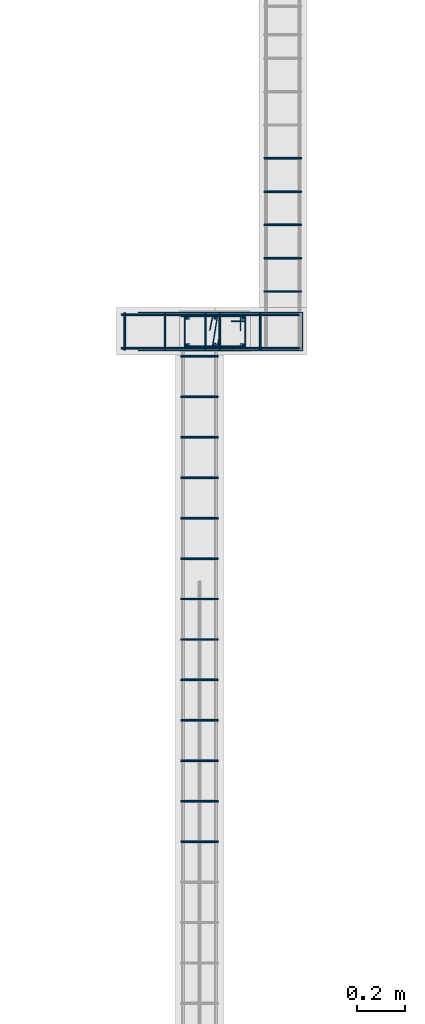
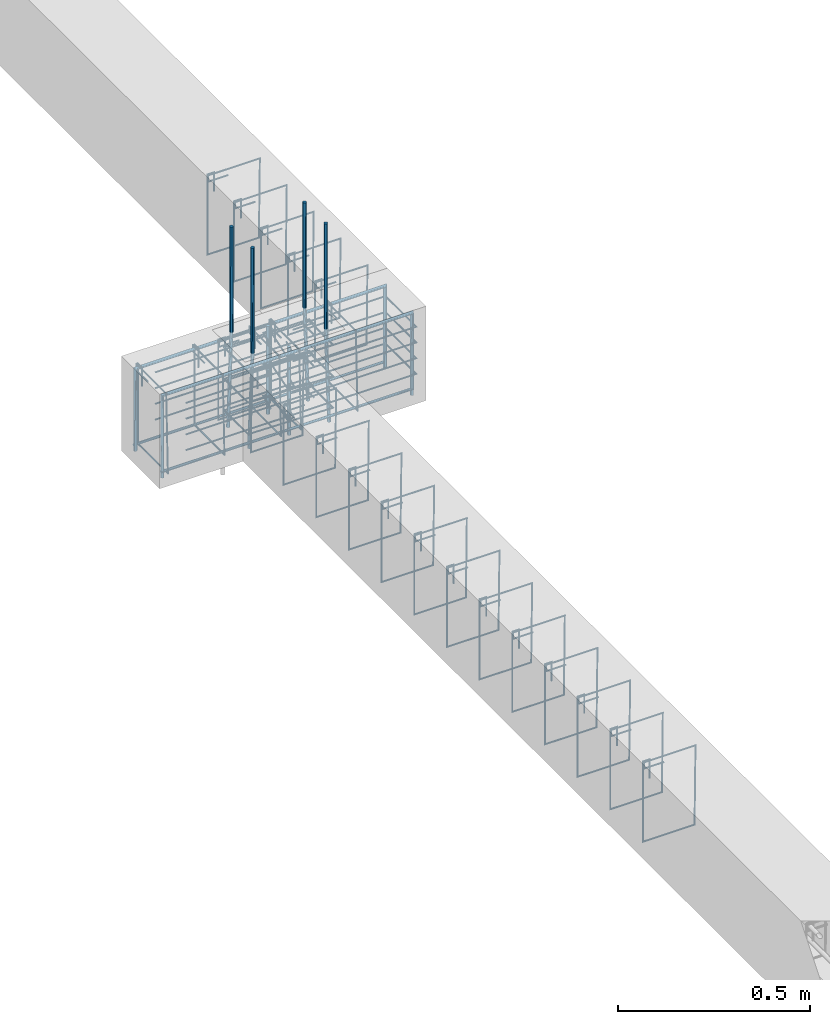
# One storey, part 95 of 150: 44 reinforcing bars.
"""IFC4 building model written with IfcOpenShell, lengths in centimetres."""

import ifcopenshell
import ifcopenshell.guid

model = None  # the IFC model being written
_history = None  # IfcOwnerHistory: only IFC2X3 demands one
_inside = {}  # id of a spatial element -> (the spatial element, [elements in it])
_under = {}  # id of a project, library or spatial element -> (it, [spatial elements below it])
_declared = {}  # id of a project -> (the project, [libraries it declares])
_typed = {}  # id of a type object -> (the type object, [elements of that type])
_made_of = {}  # id of a material, layer set ... -> (it, [elements and type objects made of it])


def new_model(schema):
    """Start an empty IFC model of exactly this schema.

    Asked for "IFC4X3", IfcOpenShell would pick the latest addendum, in which some entities
    have other attributes; the version numbers below select the first issue.
    IFC2X3 requires an IfcOwnerHistory on every rooted entity: one is made here for all.
    """
    global model, _history
    if schema == "IFC4X3":
        model = ifcopenshell.file(schema_version=(4, 3, 0, 0))
    else:
        model = ifcopenshell.file(schema=schema)
    _inside.clear()
    _under.clear()
    _declared.clear()
    _typed.clear()
    _made_of.clear()
    _history = None
    if model.schema == "IFC2X3":
        org = make("IfcOrganization", Name="unknown")
        user = make(
            "IfcPersonAndOrganization",
            ThePerson=make("IfcPerson", FamilyName="unknown"),
            TheOrganization=org,
        )
        app = make(
            "IfcApplication",
            ApplicationDeveloper=org,
            Version="unknown",
            ApplicationFullName="unknown",
            ApplicationIdentifier="unknown",
        )
        _history = make(
            "IfcOwnerHistory",
            OwningUser=user,
            OwningApplication=app,
            ChangeAction="ADDED",
            CreationDate=0,
        )
    return model


def make(cls, **values):
    """One entity of the class cls with the attributes given. An attribute that is None is left unset."""
    return model.create_entity(
        cls, **{name: value for name, value in values.items() if value is not None}
    )


def entity(cls, *values):
    """Any entity or typed value of the class cls, its attributes in the order of the schema. None: left unset."""
    e = model.create_entity(cls)
    for i, value in enumerate(values):
        if value is not None:
            e[i] = value
    return e


def rooted(cls, **values):
    """An entity with a GlobalId (a new one), such as an element, a storey or a relation."""
    return make(cls, GlobalId=ifcopenshell.guid.new(), OwnerHistory=_history, **values)


def si_unit(unit_type, name, prefix=None):
    """IfcSIUnit, for example si_unit("LENGTHUNIT", "METRE", prefix="MILLI")."""
    return make("IfcSIUnit", UnitType=unit_type, Prefix=prefix, Name=name)


def derived_unit(unit_type, elements):
    """IfcDerivedUnit: a product of units, each with its exponent."""
    return make(
        "IfcDerivedUnit",
        Elements=[
            make("IfcDerivedUnitElement", Unit=unit, Exponent=power)
            for unit, power in elements
        ],
        UnitType=unit_type,
    )


def assignment(units):
    """IfcUnitAssignment: the units of a project."""
    return None if units is None else make("IfcUnitAssignment", Units=units)


def point(xyz):
    """IfcCartesianPoint."""
    return None if xyz is None else make("IfcCartesianPoint", Coordinates=xyz)


def direction(xyz):
    """IfcDirection."""
    return None if xyz is None else make("IfcDirection", DirectionRatios=xyz)


def frame(location, z_axis=None, x_axis=None):
    """IfcAxis2Placement3D, a coordinate frame: its origin and axes. An axis left out is left unset."""
    return make(
        "IfcAxis2Placement3D",
        Location=point(location),
        Axis=direction(z_axis),
        RefDirection=direction(x_axis),
    )


def origin_with_axes():
    """The frame at (0, 0, 0) with the z axis (0, 0, 1) and the x axis (1, 0, 0) written out."""
    return frame((0.0, 0.0, 0.0), z_axis=(0.0, 0.0, 1.0), x_axis=(1.0, 0.0, 0.0))


def place(relative_to, where):
    """IfcLocalPlacement: puts the frame where relative to a parent placement (None: the world)."""
    return make(
        "IfcLocalPlacement", PlacementRelTo=relative_to, RelativePlacement=where
    )


def context(
    kind, dimensions, precision=None, world=None, true_north=None, identifier=None
):
    """IfcGeometricRepresentationContext, for example the 3D "Model" context."""
    return make(
        "IfcGeometricRepresentationContext",
        ContextIdentifier=identifier,
        ContextType=kind,
        CoordinateSpaceDimension=dimensions,
        Precision=precision,
        WorldCoordinateSystem=world,
        TrueNorth=true_north,
    )


def project(units=None, contexts=None):
    """IfcProject with its units and contexts."""
    return rooted(
        "IfcProject",
        Name="project",
        RepresentationContexts=contexts,
        UnitsInContext=assignment(units),
    )


def spatial(cls, under=None, at=None, **own):
    """A site, building, storey or space (cls), placed at a placement, below another one or the project."""
    s = rooted(cls, ObjectPlacement=at, **own)
    if under is not None:
        _under.setdefault(under.id(), (under, []))[1].append(s)
    return s


def shape(context_of_items, identifier, shape_type, items):
    """IfcShapeRepresentation: the items that make up one representation, for example the "Body"."""
    return make(
        "IfcShapeRepresentation",
        ContextOfItems=context_of_items,
        RepresentationIdentifier=identifier,
        RepresentationType=shape_type,
        Items=items,
    )


def source(mapping_origin, context_of_items, identifier, shape_type, items):
    """IfcRepresentationMap: a shape defined once, which mapped items show again and again."""
    return make(
        "IfcRepresentationMap",
        MappingOrigin=mapping_origin,
        MappedRepresentation=shape(context_of_items, identifier, shape_type, items),
    )


def transform(
    local_origin,
    x_axis=None,
    y_axis=None,
    z_axis=None,
    scale=None,
    scale2=None,
    scale3=None,
    uniform=True,
):
    """IfcCartesianTransformationOperator3D, or its non-uniform kind. x_axis, y_axis, z_axis: its Axis1, 2, 3."""
    if uniform:
        return make(
            "IfcCartesianTransformationOperator3D",
            Axis1=direction(x_axis),
            Axis2=direction(y_axis),
            LocalOrigin=point(local_origin),
            Scale=scale,
            Axis3=direction(z_axis),
        )
    return make(
        "IfcCartesianTransformationOperator3DnonUniform",
        Axis1=direction(x_axis),
        Axis2=direction(y_axis),
        LocalOrigin=point(local_origin),
        Scale=scale,
        Axis3=direction(z_axis),
        Scale2=scale2,
        Scale3=scale3,
    )


def mapped(mapping_source, mapping_target):
    """IfcMappedItem: shows the shape of a source again, moved by a transform."""
    return make(
        "IfcMappedItem", MappingSource=mapping_source, MappingTarget=mapping_target
    )


def made_of(thing, what):
    """Note that an element or type object is made of a material, layer set ...; save() writes the relation."""
    if what is not None:
        _made_of.setdefault(what.id(), (what, []))[1].append(thing)
    return thing


def element(
    cls,
    number,
    at=None,
    inside=None,
    cuts=None,
    type_object=None,
    material=None,
    context=None,
    identifier="Body",
    shape_type=None,
    held_by="IfcProductDefinitionShape",
    body=None,
    shapes=None,
    **own,
):
    """One element of the class cls, such as IfcWall. Its Tag is "e" and its number.

    at: its placement. inside: the storey or other place that contains it. cuts: it is an
    opening in that element (IfcRelVoidsElement). A single representation is given by context,
    identifier, shape_type and body (its items); several are given by shapes. held_by: the class
    of the entity that holds the representations. save() writes the other relations.
    """
    e = rooted(cls, Tag="e%d" % number, ObjectPlacement=at, **own)
    if body is not None:
        shapes = [shape(context, identifier, shape_type, body)]
    if shapes is not None:
        e.Representation = make(held_by, Representations=shapes)
    if inside is not None:
        _inside.setdefault(inside.id(), (inside, []))[1].append(e)
    if cuts is not None:
        rooted(
            "IfcRelVoidsElement", RelatingBuildingElement=cuts, RelatedOpeningElement=e
        )
    if type_object is not None:
        _typed.setdefault(type_object.id(), (type_object, []))[1].append(e)
    return made_of(e, material)


def aggregate(whole, parts):
    """IfcRelAggregates: a whole, such as a stair, and the parts it consists of."""
    return rooted("IfcRelAggregates", RelatingObject=whole, RelatedObjects=parts)


def save(model, path):
    """Write the relations noted so far, then the file.

    IfcRelAggregates (storeys below a building ...), IfcRelContainedInSpatialStructure (elements
    in a storey), IfcRelDefinesByType, IfcRelAssociatesMaterial and IfcRelDeclares: one each for
    every whole, place, type object, material and project.
    """
    for whole, parts in _under.values():
        aggregate(whole, parts)
    for where, things in _inside.values():
        rooted(
            "IfcRelContainedInSpatialStructure",
            RelatedElements=things,
            RelatingStructure=where,
        )
    for kind, things in _typed.values():
        rooted("IfcRelDefinesByType", RelatedObjects=things, RelatingType=kind)
    for what, things in _made_of.values():
        rooted("IfcRelAssociatesMaterial", RelatedObjects=things, RelatingMaterial=what)
    for by, libraries in _declared.values():
        rooted("IfcRelDeclares", RelatingContext=by, RelatedDefinitions=libraries)
    model.write(path)


model = new_model("IFC4")

# Units and contexts
model_context = context("Model", 3, precision=1e-05, world=origin_with_axes(), identifier="Body")
ifc_project = project(units=[si_unit("LENGTHUNIT", "METRE", prefix="CENTI"), si_unit("VOLUMEUNIT", "CUBIC_METRE"), si_unit("AREAUNIT", "SQUARE_METRE"), si_unit("POWERUNIT", "WATT"), si_unit("LUMINOUSFLUXUNIT", "LUMEN"), si_unit("ELECTRICCURRENTUNIT", "AMPERE"), si_unit("PRESSUREUNIT", "PASCAL", prefix="KILO"), si_unit("MASSUNIT", "GRAM", prefix="KILO"), si_unit("PLANEANGLEUNIT", "RADIAN"), derived_unit("VOLUMETRICFLOWRATEUNIT", [(si_unit("LENGTHUNIT", "METRE"), 3), (si_unit("TIMEUNIT", "SECOND"), -1)])], contexts=[model_context])

# Site, building, storey
site_placement = place(None, frame((-4000.0, 0.0, 0.0), z_axis=(0.0, 0.0, 1.0), x_axis=(1.0, 0.0, 0.0)))
site = spatial("IfcSite", under=ifc_project, at=site_placement, Name="PADRÃO")
building_placement = place(site_placement, frame((0.0, 0.0, -14.0)))
building = spatial("IfcBuilding", under=site, at=building_placement, Name="CRECHE PRÉ-ESCOLA TIPO 2")
placement = place(building_placement, origin_with_axes())
storey_placement = place(placement, frame((0.0, 0.0, 30.0), z_axis=(0.0, 0.0, 1.0), x_axis=(1.0, 0.0, 0.0)))
storey = spatial("IfcBuildingStorey", under=building, at=storey_placement, Name="VIGA BALDRAME", CompositionType="ELEMENT", Elevation=16.0)

# Reinforcing bars
shared_shape_1 = source(origin_with_axes(), model_context, "Body", "AdvancedSweptSolid", [
    entity("IfcSweptDiskSolid", entity("IfcCompositeCurve", [entity("IfcCompositeCurveSegment", "CONTINUOUS", True, entity("IfcPolyline", [entity("IfcCartesianPoint", [4.25, 21.75, 0.0]), entity("IfcCartesianPoint", [4.25, 27.75, 0.0])])), entity("IfcCompositeCurveSegment", "CONTINUOUS", True, entity("IfcPolyline", [entity("IfcCartesianPoint", [4.25, 27.75, 0.0]), entity("IfcCartesianPoint", [2.25, 27.75, 0.0])])), entity("IfcCompositeCurveSegment", "CONTINUOUS", True, entity("IfcPolyline", [entity("IfcCartesianPoint", [2.25, 27.75, 0.0]), entity("IfcCartesianPoint", [2.25, 2.25, 0.0])])), entity("IfcCompositeCurveSegment", "CONTINUOUS", True, entity("IfcPolyline", [entity("IfcCartesianPoint", [2.25, 2.25, 0.0]), entity("IfcCartesianPoint", [14.75, 2.25, 0.0])])), entity("IfcCompositeCurveSegment", "CONTINUOUS", True, entity("IfcPolyline", [entity("IfcCartesianPoint", [14.75, 2.25, 0.0]), entity("IfcCartesianPoint", [14.75, 27.75, -0.5])])), entity("IfcCompositeCurveSegment", "CONTINUOUS", True, entity("IfcPolyline", [entity("IfcCartesianPoint", [14.75, 27.75, -0.5]), entity("IfcCartesianPoint", [2.25, 27.75, -0.5])])), entity("IfcCompositeCurveSegment", "CONTINUOUS", True, entity("IfcPolyline", [entity("IfcCartesianPoint", [2.25, 27.75, -0.5]), entity("IfcCartesianPoint", [2.25, 25.75, -0.5])])), entity("IfcCompositeCurveSegment", "CONTINUOUS", True, entity("IfcPolyline", [entity("IfcCartesianPoint", [2.25, 25.75, -0.5]), entity("IfcCartesianPoint", [8.25, 25.75, -0.5])]))], False), 0.25),
])
for number, where, z_axis, x_axis, name in (
    (1, (3357.5, 1038.58, -25.0), (0.0, 0.0, 1.0), (0.0, -1.0, 0.0), "P124 - Estribo"),
    (2, (3357.5, 1038.58, -15.0), (0.0, 0.0, 1.0), (0.0, -1.0, 0.0), "P124 - Estribo"),
    (3, (3357.5, 1038.58, -5.0), (0.0, 0.0, 1.0), (0.0, -1.0, 0.0), "P124 - Estribo"),
):
    element("IfcReinforcingBar", number, at=place(storey_placement, frame(where, z_axis=z_axis, x_axis=x_axis)), inside=storey, Name=name, BarLength=0.0, CrossSectionArea=1.9634954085e-05, NominalDiameter=0.5, PredefinedType="MAIN", context=model_context, shape_type="MappedRepresentation", body=[
        mapped(shared_shape_1, transform((0.0, 0.0, 0.0), scale=1.0)),
    ])
shared_shape_2 = source(origin_with_axes(), model_context, "Body", "AdvancedSweptSolid", [
    entity("IfcSweptDiskSolid", entity("IfcCompositeCurve", [entity("IfcCompositeCurveSegment", "CONTINUOUS", True, entity("IfcPolyline", [entity("IfcCartesianPoint", [8.81925062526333, 17.1913887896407, 0.0]), entity("IfcCartesianPoint", [14.75, 16.0, 0.0])])), entity("IfcCompositeCurveSegment", "CONTINUOUS", True, entity("IfcPolyline", [entity("IfcCartesianPoint", [14.75, 16.0, 0.0]), entity("IfcCartesianPoint", [14.75, 14.0, 0.0])])), entity("IfcCompositeCurveSegment", "CONTINUOUS", True, entity("IfcPolyline", [entity("IfcCartesianPoint", [14.75, 14.0, 0.0]), entity("IfcCartesianPoint", [2.25, 16.0, 0.0])])), entity("IfcCompositeCurveSegment", "CONTINUOUS", True, entity("IfcPolyline", [entity("IfcCartesianPoint", [2.25, 16.0, 0.0]), entity("IfcCartesianPoint", [2.25, 14.0, 0.0])])), entity("IfcCompositeCurveSegment", "CONTINUOUS", True, entity("IfcPolyline", [entity("IfcCartesianPoint", [2.25, 14.0, 0.0]), entity("IfcCartesianPoint", [8.1807493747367, 12.8086112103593, 0.0])]))], False), 0.25),
])
for number, where, z_axis, x_axis, name in (
    (4, (3357.5, 1038.58, -4.5), (0.0, 0.0, 1.0), (0.0, -1.0, 0.0), "P124 - Grampo"),
    (5, (3357.5, 1038.58, -14.5), (0.0, 0.0, 1.0), (0.0, -1.0, 0.0), "P124 - Grampo"),
    (6, (3357.5, 1038.58, -24.5), (0.0, 0.0, 1.0), (0.0, -1.0, 0.0), "P124 - Grampo"),
):
    element("IfcReinforcingBar", number, at=place(storey_placement, frame(where, z_axis=z_axis, x_axis=x_axis)), inside=storey, Name=name, BarLength=0.0, CrossSectionArea=1.9634954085e-05, NominalDiameter=0.5, PredefinedType="MAIN", context=model_context, shape_type="MappedRepresentation", body=[
        mapped(shared_shape_2, transform((0.0, 0.0, 0.0), scale=1.0)),
    ])
shared_shape_3 = source(origin_with_axes(), model_context, "Body", "AdvancedSweptSolid", [
    entity("IfcSweptDiskSolid", entity("IfcCompositeCurve", [entity("IfcCompositeCurveSegment", "CONTINUOUS", True, entity("IfcPolyline", [entity("IfcCartesianPoint", [2.0, -6.0, 0.0]), entity("IfcCartesianPoint", [2.0, 0.0, 0.0])])), entity("IfcCompositeCurveSegment", "CONTINUOUS", True, entity("IfcPolyline", [entity("IfcCartesianPoint", [2.0, 0.0, 0.0]), entity("IfcCartesianPoint", [0.0, 0.0, 0.0])])), entity("IfcCompositeCurveSegment", "CONTINUOUS", True, entity("IfcPolyline", [entity("IfcCartesianPoint", [0.0, 0.0, 0.0]), entity("IfcCartesianPoint", [0.0, -25.5, 0.0])])), entity("IfcCompositeCurveSegment", "CONTINUOUS", True, entity("IfcPolyline", [entity("IfcCartesianPoint", [0.0, -25.5, 0.0]), entity("IfcCartesianPoint", [15.5, -25.5, 0.0])])), entity("IfcCompositeCurveSegment", "CONTINUOUS", True, entity("IfcPolyline", [entity("IfcCartesianPoint", [15.5, -25.5, 0.0]), entity("IfcCartesianPoint", [15.5, 0.0, 0.5])])), entity("IfcCompositeCurveSegment", "CONTINUOUS", True, entity("IfcPolyline", [entity("IfcCartesianPoint", [15.5, 0.0, 0.5]), entity("IfcCartesianPoint", [0.0, 0.0, 0.5])])), entity("IfcCompositeCurveSegment", "CONTINUOUS", True, entity("IfcPolyline", [entity("IfcCartesianPoint", [0.0, 0.0, 0.5]), entity("IfcCartesianPoint", [0.0, -2.0, 0.5])])), entity("IfcCompositeCurveSegment", "CONTINUOUS", True, entity("IfcPolyline", [entity("IfcCartesianPoint", [0.0, -2.0, 0.5]), entity("IfcCartesianPoint", [6.0, -2.0, 0.5])]))], False), 0.25),
])
for number, where, z_axis, x_axis, name in (
    (7, (3393.23, 1047.08, -2.25), (0.0, -1.0, 0.0), (1.0, 0.0, 0.0), "V225 - Estribo"),
    (8, (3393.23, 1103.08, -2.25), (0.0, -1.0, 0.0), (1.0, 0.0, 0.0), "V225 - Estribo"),
    (9, (3393.23, 1089.08, -2.25), (0.0, -1.0, 0.0), (1.0, 0.0, 0.0), "V225 - Estribo"),
    (10, (3393.23, 1075.08, -2.25), (0.0, -1.0, 0.0), (1.0, 0.0, 0.0), "V225 - Estribo"),
    (11, (3393.23, 1061.08, -2.25), (0.0, -1.0, 0.0), (1.0, 0.0, 0.0), "V225 - Estribo"),
):
    element("IfcReinforcingBar", number, at=place(storey_placement, frame(where, z_axis=z_axis, x_axis=x_axis)), inside=storey, Name=name, BarLength=0.0, CrossSectionArea=1.9634954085e-05, NominalDiameter=0.5, PredefinedType="MAIN", context=model_context, shape_type="MappedRepresentation", body=[
        mapped(shared_shape_3, transform((0.0, 0.0, 0.0), scale=1.0)),
    ])
shared_shape_4 = source(origin_with_axes(), model_context, "Body", "AdvancedSweptSolid", [
    entity("IfcSweptDiskSolid", entity("IfcCompositeCurve", [entity("IfcCompositeCurveSegment", "CONTINUOUS", True, entity("IfcPolyline", [entity("IfcCartesianPoint", [2.0, -6.0, 0.0]), entity("IfcCartesianPoint", [2.0, 0.0, 0.0])])), entity("IfcCompositeCurveSegment", "CONTINUOUS", True, entity("IfcPolyline", [entity("IfcCartesianPoint", [2.0, 0.0, 0.0]), entity("IfcCartesianPoint", [0.0, 0.0, 0.0])])), entity("IfcCompositeCurveSegment", "CONTINUOUS", True, entity("IfcPolyline", [entity("IfcCartesianPoint", [0.0, 0.0, 0.0]), entity("IfcCartesianPoint", [0.0, -25.5, 0.0])])), entity("IfcCompositeCurveSegment", "CONTINUOUS", True, entity("IfcPolyline", [entity("IfcCartesianPoint", [0.0, -25.5, 0.0]), entity("IfcCartesianPoint", [15.5, -25.5, 0.0])])), entity("IfcCompositeCurveSegment", "CONTINUOUS", True, entity("IfcPolyline", [entity("IfcCartesianPoint", [15.5, -25.5, 0.0]), entity("IfcCartesianPoint", [15.5, 0.0, 0.5])])), entity("IfcCompositeCurveSegment", "CONTINUOUS", True, entity("IfcPolyline", [entity("IfcCartesianPoint", [15.5, 0.0, 0.5]), entity("IfcCartesianPoint", [0.0, 0.0, 0.5])])), entity("IfcCompositeCurveSegment", "CONTINUOUS", True, entity("IfcPolyline", [entity("IfcCartesianPoint", [0.0, 0.0, 0.5]), entity("IfcCartesianPoint", [0.0, -2.0, 0.5])])), entity("IfcCompositeCurveSegment", "CONTINUOUS", True, entity("IfcPolyline", [entity("IfcCartesianPoint", [0.0, -2.0, 0.5]), entity("IfcCartesianPoint", [6.0, -2.0, 0.5])]))], False), 0.25),
])
for number, where, z_axis, x_axis, name in (
    (12, (3358.25, 1036.795, -2.25), (0.0, -1.0, 0.0), (1.0, 0.0, 0.0), "V224 - Estribo"),
    (13, (3358.25, 1019.795, -2.25), (0.0, -1.0, 0.0), (1.0, 0.0, 0.0), "V224 - Estribo"),
    (14, (3358.25, 1002.795, -2.25), (0.0, -1.0, 0.0), (1.0, 0.0, 0.0), "V224 - Estribo"),
    (15, (3358.25, 985.795, -2.25), (0.0, -1.0, 0.0), (1.0, 0.0, 0.0), "V224 - Estribo"),
    (16, (3358.25, 968.795, -2.25), (0.0, -1.0, 0.0), (1.0, 0.0, 0.0), "V224 - Estribo"),
    (17, (3358.25, 951.795, -2.25), (0.0, -1.0, 0.0), (1.0, 0.0, 0.0), "V224 - Estribo"),
    (18, (3358.25, 934.795, -2.25), (0.0, -1.0, 0.0), (1.0, 0.0, 0.0), "V224 - Estribo"),
    (19, (3358.25, 917.795, -2.25), (0.0, -1.0, 0.0), (1.0, 0.0, 0.0), "V224 - Estribo"),
    (20, (3358.25, 900.795, -2.25), (0.0, -1.0, 0.0), (1.0, 0.0, 0.0), "V224 - Estribo"),
    (21, (3358.25, 883.795, -2.25), (0.0, -1.0, 0.0), (1.0, 0.0, 0.0), "V224 - Estribo"),
    (22, (3358.25, 866.795, -2.25), (0.0, -1.0, 0.0), (1.0, 0.0, 0.0), "V224 - Estribo"),
    (23, (3358.25, 849.795, -2.25), (0.0, -1.0, 0.0), (1.0, 0.0, 0.0), "V224 - Estribo"),
    (24, (3358.25, 832.795, -2.25), (0.0, -1.0, 0.0), (1.0, 0.0, 0.0), "V224 - Estribo"),
    (25, (3358.25, 815.795, -2.25), (0.0, -1.0, 0.0), (1.0, 0.0, 0.0), "V224 - Estribo"),
):
    element("IfcReinforcingBar", number, at=place(storey_placement, frame(where, z_axis=z_axis, x_axis=x_axis)), inside=storey, Name=name, BarLength=0.0, CrossSectionArea=1.9634954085e-05, NominalDiameter=0.5, PredefinedType="MAIN", context=model_context, shape_type="MappedRepresentation", body=[
        mapped(shared_shape_4, transform((0.0, 0.0, 0.0), scale=1.0)),
    ])
shared_shape_5 = source(origin_with_axes(), model_context, "Body", "AdvancedSweptSolid", [
    entity("IfcSweptDiskSolid", entity("IfcCompositeCurve", [entity("IfcCompositeCurveSegment", "CONTINUOUS", True, entity("IfcPolyline", [entity("IfcCartesianPoint", [2.0, -6.0, 0.0]), entity("IfcCartesianPoint", [2.0, 0.0, 0.0])])), entity("IfcCompositeCurveSegment", "CONTINUOUS", True, entity("IfcPolyline", [entity("IfcCartesianPoint", [2.0, 0.0, 0.0]), entity("IfcCartesianPoint", [0.0, 0.0, 0.0])])), entity("IfcCompositeCurveSegment", "CONTINUOUS", True, entity("IfcPolyline", [entity("IfcCartesianPoint", [0.0, 0.0, 0.0]), entity("IfcCartesianPoint", [0.0, -25.5, 0.0])])), entity("IfcCompositeCurveSegment", "CONTINUOUS", True, entity("IfcPolyline", [entity("IfcCartesianPoint", [0.0, -25.5, 0.0]), entity("IfcCartesianPoint", [15.5, -25.5, 0.0])])), entity("IfcCompositeCurveSegment", "CONTINUOUS", True, entity("IfcPolyline", [entity("IfcCartesianPoint", [15.5, -25.5, 0.0]), entity("IfcCartesianPoint", [15.5, 0.0, 0.5])])), entity("IfcCompositeCurveSegment", "CONTINUOUS", True, entity("IfcPolyline", [entity("IfcCartesianPoint", [15.5, 0.0, 0.5]), entity("IfcCartesianPoint", [0.0, 0.0, 0.5])])), entity("IfcCompositeCurveSegment", "CONTINUOUS", True, entity("IfcPolyline", [entity("IfcCartesianPoint", [0.0, 0.0, 0.5]), entity("IfcCartesianPoint", [0.0, -2.0, 0.5])])), entity("IfcCompositeCurveSegment", "CONTINUOUS", True, entity("IfcPolyline", [entity("IfcCartesianPoint", [0.0, -2.0, 0.5]), entity("IfcCartesianPoint", [6.0, -2.0, 0.5])]))], False), 0.25),
])
for number, where, z_axis, x_axis, name in (
    (26, (3334.755, 1037.83, -2.25), (-1.0, 0.0, 0.0), (0.0, -1.0, 0.0), "V144 - Estribo"),
    (27, (3351.755, 1037.83, -2.25), (-1.0, 0.0, 0.0), (0.0, -1.0, 0.0), "V144 - Estribo"),
    (28, (3368.755, 1037.83, -2.25), (-1.0, 0.0, 0.0), (0.0, -1.0, 0.0), "V144 - Estribo"),
):
    element("IfcReinforcingBar", number, at=place(storey_placement, frame(where, z_axis=z_axis, x_axis=x_axis)), inside=storey, Name=name, BarLength=0.0, CrossSectionArea=1.9634954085e-05, NominalDiameter=0.5, PredefinedType="MAIN", context=model_context, shape_type="MappedRepresentation", body=[
        mapped(shared_shape_5, transform((0.0, 0.0, 0.0), scale=1.0)),
    ])
shared_shape_6 = source(origin_with_axes(), model_context, "Body", "AdvancedSweptSolid", [
    entity("IfcSweptDiskSolid", entity("IfcCompositeCurve", [entity("IfcCompositeCurveSegment", "CONTINUOUS", True, entity("IfcPolyline", [entity("IfcCartesianPoint", [2.0, -6.0, 0.0]), entity("IfcCartesianPoint", [2.0, 0.0, 0.0])])), entity("IfcCompositeCurveSegment", "CONTINUOUS", True, entity("IfcPolyline", [entity("IfcCartesianPoint", [2.0, 0.0, 0.0]), entity("IfcCartesianPoint", [0.0, 0.0, 0.0])])), entity("IfcCompositeCurveSegment", "CONTINUOUS", True, entity("IfcPolyline", [entity("IfcCartesianPoint", [0.0, 0.0, 0.0]), entity("IfcCartesianPoint", [0.0, -25.5, 0.0])])), entity("IfcCompositeCurveSegment", "CONTINUOUS", True, entity("IfcPolyline", [entity("IfcCartesianPoint", [0.0, -25.5, 0.0]), entity("IfcCartesianPoint", [15.5, -25.5, 0.0])])), entity("IfcCompositeCurveSegment", "CONTINUOUS", True, entity("IfcPolyline", [entity("IfcCartesianPoint", [15.5, -25.5, 0.0]), entity("IfcCartesianPoint", [15.5, 0.0, 0.5])])), entity("IfcCompositeCurveSegment", "CONTINUOUS", True, entity("IfcPolyline", [entity("IfcCartesianPoint", [15.5, 0.0, 0.5]), entity("IfcCartesianPoint", [0.0, 0.0, 0.5])])), entity("IfcCompositeCurveSegment", "CONTINUOUS", True, entity("IfcPolyline", [entity("IfcCartesianPoint", [0.0, 0.0, 0.5]), entity("IfcCartesianPoint", [0.0, -2.0, 0.5])])), entity("IfcCompositeCurveSegment", "CONTINUOUS", True, entity("IfcPolyline", [entity("IfcCartesianPoint", [0.0, -2.0, 0.5]), entity("IfcCartesianPoint", [6.0, -2.0, 0.5])]))], False), 0.25),
])
for number, where, z_axis, x_axis, name in (
    (29, (3374.74, 1037.83, -2.25), (-1.0, 0.0, 0.0), (0.0, -1.0, 0.0), "V144 - Estribo"),
    (30, (3391.74, 1037.83, -2.25), (-1.0, 0.0, 0.0), (0.0, -1.0, 0.0), "V144 - Estribo"),
):
    element("IfcReinforcingBar", number, at=place(storey_placement, frame(where, z_axis=z_axis, x_axis=x_axis)), inside=storey, Name=name, BarLength=0.0, CrossSectionArea=1.9634954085e-05, NominalDiameter=0.5, PredefinedType="MAIN", context=model_context, shape_type="MappedRepresentation", body=[
        mapped(shared_shape_6, transform((0.0, 0.0, 0.0), scale=1.0)),
    ])
shared_shape_7 = source(origin_with_axes(), model_context, "Body", "AdvancedSweptSolid", [
    entity("IfcSweptDiskSolid", entity("IfcCompositeCurve", [entity("IfcCompositeCurveSegment", "CONTINUOUS", True, entity("IfcPolyline", [entity("IfcCartesianPoint", [0.0, 0.0, 0.0]), entity("IfcCartesianPoint", [69.1813828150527, 0.0, 0.0])])), entity("IfcCompositeCurveSegment", "CONTINUOUS", True, entity("IfcPolyline", [entity("IfcCartesianPoint", [69.1813828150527, 0.0, 0.0]), entity("IfcCartesianPoint", [69.1813828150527, 16.0, 0.0])])), entity("IfcCompositeCurveSegment", "CONTINUOUS", True, entity("IfcPolyline", [entity("IfcCartesianPoint", [69.1813828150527, 16.0, 0.0]), entity("IfcCartesianPoint", [0.0, 16.0, 0.0])]))], False), 0.25),
])
for number, where, z_axis, x_axis, name in (
    (31, (3340.04861718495, 1022.08, -7.1), (0.0, 0.0, 1.0), (1.0, 0.0, 0.0), "V144 - Grampo"),
    (32, (3340.04861718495, 1022.08, -22.1), (0.0, 0.0, 1.0), (1.0, 0.0, 0.0), "V144 - Grampo"),
    (33, (3340.04861718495, 1022.08, -17.1), (0.0, 0.0, 1.0), (1.0, 0.0, 0.0), "V144 - Grampo"),
    (34, (3340.04861718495, 1022.08, -12.1), (0.0, 0.0, 1.0), (1.0, 0.0, 0.0), "V144 - Grampo"),
):
    element("IfcReinforcingBar", number, at=place(storey_placement, frame(where, z_axis=z_axis, x_axis=x_axis)), inside=storey, Name=name, BarLength=0.0, CrossSectionArea=1.9634954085e-05, NominalDiameter=0.5, PredefinedType="MAIN", context=model_context, shape_type="MappedRepresentation", body=[
        mapped(shared_shape_7, transform((0.0, 0.0, 0.0), scale=1.0)),
    ])
reinforcing_bar_1_placement = place(storey_placement, frame((3383.99986122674, 1035.58, 33.3573001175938), z_axis=(0.0, 0.0, 1.0), x_axis=(1.0, 0.0, 0.0)))
element("IfcReinforcingBar", 35, at=reinforcing_bar_1_placement, inside=storey, Name="P124 - Longitudinal", BarLength=0.0, CrossSectionArea=7.853981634e-05, NominalDiameter=1.0, PredefinedType="MAIN", context=model_context, shape_type="AdvancedSweptSolid", body=[
    entity("IfcSweptDiskSolid", entity("IfcCompositeCurve", [entity("IfcCompositeCurveSegment", "CONTINUOUS", True, entity("IfcPolyline", [entity("IfcCartesianPoint", [0.500138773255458, 0.0, -63.3573001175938]), entity("IfcCartesianPoint", [-0.499861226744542, 0.0, -33.3573001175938])])), entity("IfcCompositeCurveSegment", "CONTINUOUS", True, entity("IfcPolyline", [entity("IfcCartesianPoint", [-0.499861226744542, 0.0, -33.3573001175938]), entity("IfcCartesianPoint", [-0.499861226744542, 0.0, 0.0])]))], False), 0.5),
])
for number, where, z_axis, x_axis, name in (
    (36, (3361.00013877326, 1024.58, 33.3573001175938), (0.0, 0.0, 1.0), (1.0, 0.0, 0.0), "P124 - Longitudinal"),
    (37, (3361.00013877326, 1035.58, 33.3573001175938), (0.0, 0.0, 1.0), (1.0, 0.0, 0.0), "P124 - Longitudinal"),
):
    element("IfcReinforcingBar", number, at=place(storey_placement, frame(where, z_axis=z_axis, x_axis=x_axis)), inside=storey, Name=name, BarLength=0.0, CrossSectionArea=7.853981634e-05, NominalDiameter=1.0, PredefinedType="MAIN", context=model_context, shape_type="AdvancedSweptSolid", body=[
        entity("IfcSweptDiskSolid", entity("IfcCompositeCurve", [entity("IfcCompositeCurveSegment", "CONTINUOUS", True, entity("IfcPolyline", [entity("IfcCartesianPoint", [-0.500138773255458, 0.0, -63.3573001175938]), entity("IfcCartesianPoint", [0.499861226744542, 0.0, -33.3573001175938])])), entity("IfcCompositeCurveSegment", "CONTINUOUS", True, entity("IfcPolyline", [entity("IfcCartesianPoint", [0.499861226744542, 0.0, -33.3573001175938]), entity("IfcCartesianPoint", [0.499861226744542, 0.0, 0.0])]))], False), 0.5),
    ])
reinforcing_bar_2_placement = place(storey_placement, frame((3383.99986122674, 1024.58, 33.3573001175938), z_axis=(0.0, 0.0, 1.0), x_axis=(1.0, 0.0, 0.0)))
element("IfcReinforcingBar", 38, at=reinforcing_bar_2_placement, inside=storey, Name="P124 - Longitudinal", BarLength=0.0, CrossSectionArea=7.853981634e-05, NominalDiameter=1.0, PredefinedType="MAIN", context=model_context, shape_type="AdvancedSweptSolid", body=[
    entity("IfcSweptDiskSolid", entity("IfcCompositeCurve", [entity("IfcCompositeCurveSegment", "CONTINUOUS", True, entity("IfcPolyline", [entity("IfcCartesianPoint", [0.500138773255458, 0.0, -63.3573001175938]), entity("IfcCartesianPoint", [-0.499861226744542, 0.0, -33.3573001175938])])), entity("IfcCompositeCurveSegment", "CONTINUOUS", True, entity("IfcPolyline", [entity("IfcCartesianPoint", [-0.499861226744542, 0.0, -33.3573001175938]), entity("IfcCartesianPoint", [-0.499861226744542, 0.0, 0.0])]))], False), 0.5),
])
for number, where, z_axis, x_axis, name in (
    (39, (3372.5, 1035.58, -2.0), (0.0, 0.0, 1.0), (1.0, 0.0, 0.0), "P124 - Longitudinal"),
    (40, (3372.5, 1024.58, -2.0), (0.0, 0.0, 1.0), (1.0, 0.0, 0.0), "P124 - Longitudinal"),
):
    element("IfcReinforcingBar", number, at=place(storey_placement, frame(where, z_axis=z_axis, x_axis=x_axis)), inside=storey, Name=name, BarLength=0.0, CrossSectionArea=7.853981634e-05, NominalDiameter=1.0, PredefinedType="MAIN", context=model_context, shape_type="AdvancedSweptSolid", body=[
        entity("IfcSweptDiskSolid", entity("IfcCompositeCurve", [entity("IfcCompositeCurveSegment", "CONTINUOUS", True, entity("IfcPolyline", [entity("IfcCartesianPoint", [0.0, 0.0, -28.0]), entity("IfcCartesianPoint", [0.0, 0.0, 0.0])]))], False), 0.5),
    ])
for number, where, z_axis, x_axis, name in (
    (41, (3370.9968751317, 1022.98, -3.2095935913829), (0.0, 0.0, 1.0), (1.0, 0.0, 0.0), "V144 - Longitudinal inferior"),
    (42, (3370.9968751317, 1037.18, -3.2095935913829), (0.0, 0.0, 1.0), (1.0, 0.0, 0.0), "V144 - Longitudinal inferior"),
):
    element("IfcReinforcingBar", number, at=place(storey_placement, frame(where, z_axis=z_axis, x_axis=x_axis)), inside=storey, Name=name, BarLength=0.0, CrossSectionArea=5.0265482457e-05, NominalDiameter=0.8, PredefinedType="MAIN", context=model_context, shape_type="AdvancedSweptSolid", body=[
        entity("IfcSweptDiskSolid", entity("IfcCompositeCurve", [entity("IfcCompositeCurveSegment", "CONTINUOUS", True, entity("IfcPolyline", [entity("IfcCartesianPoint", [-37.9868751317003, 0.0, -23.8904064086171]), entity("IfcCartesianPoint", [37.5831248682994, 0.0, -23.8904064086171])])), entity("IfcCompositeCurveSegment", "CONTINUOUS", True, entity("IfcPolyline", [entity("IfcCartesianPoint", [37.5831248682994, 0.0, -23.8904064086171]), entity("IfcCartesianPoint", [37.5831248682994, 0.0, 0.0])]))], False), 0.4),
    ])
for number, where, z_axis, x_axis, name in (
    (43, (3370.995, 1023.08, -2.49531217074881), (0.0, 0.0, 1.0), (1.0, 0.0, 0.0), "V144 - Longitudinal superior"),
    (44, (3370.995, 1037.08, -2.49531217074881), (0.0, 0.0, 1.0), (1.0, 0.0, 0.0), "V144 - Longitudinal superior"),
):
    element("IfcReinforcingBar", number, at=place(storey_placement, frame(where, z_axis=z_axis, x_axis=x_axis)), inside=storey, Name=name, BarLength=0.0, CrossSectionArea=7.853981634e-05, NominalDiameter=1.0, PredefinedType="MAIN", context=model_context, shape_type="AdvancedSweptSolid", body=[
        entity("IfcSweptDiskSolid", entity("IfcCompositeCurve", [entity("IfcCompositeCurveSegment", "CONTINUOUS", True, entity("IfcPolyline", [entity("IfcCartesianPoint", [-37.485, 0.0, -26.5046878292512]), entity("IfcCartesianPoint", [-37.485, 0.0, -0.504687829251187])])), entity("IfcCompositeCurveSegment", "CONTINUOUS", True, entity("IfcPolyline", [entity("IfcCartesianPoint", [-37.485, 0.0, -0.504687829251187]), entity("IfcCartesianPoint", [37.485, 0.0, -0.504687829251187])])), entity("IfcCompositeCurveSegment", "CONTINUOUS", True, entity("IfcPolyline", [entity("IfcCartesianPoint", [37.485, 0.0, -0.504687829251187]), entity("IfcCartesianPoint", [37.485, 0.0, -26.5046878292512])]))], False), 0.5),
    ])

save(model, "model.ifc")
